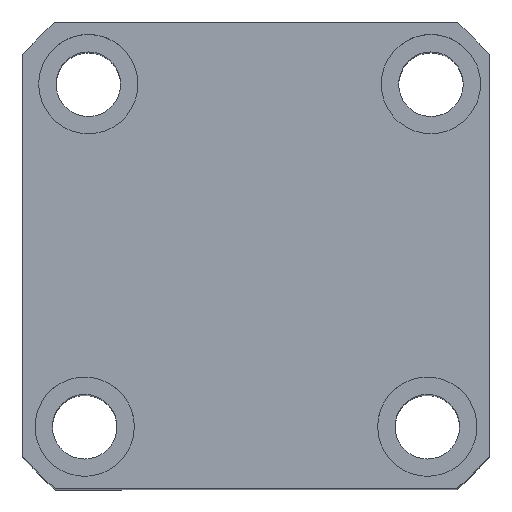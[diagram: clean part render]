
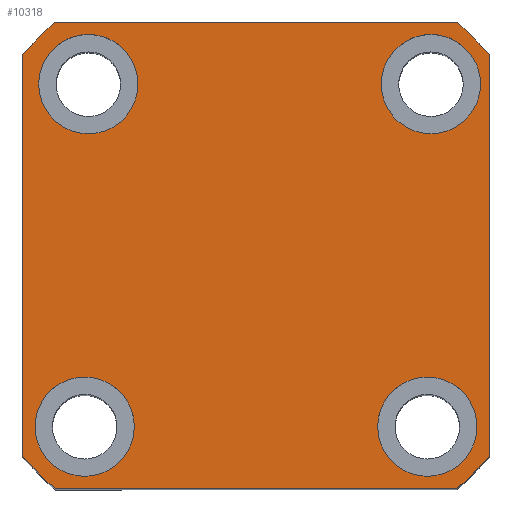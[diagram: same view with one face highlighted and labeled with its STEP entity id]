
A CAD part, top view. The second image highlights one B-rep face of the part: STEP entity #10318.
In plain terms, the highlighted planar face has unit normal (0, 0, 1) as drawn and (0, 0, -1) by its records, which use the part's own axes.
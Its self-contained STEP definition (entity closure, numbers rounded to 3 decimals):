
#5 = CIRCLE ( 'NONE', #10867, 10. ) ;
#49 = ORIENTED_EDGE ( 'NONE', *, *, #9494, .F. ) ;
#69 = DIRECTION ( 'NONE',  ( 0., 0., -1. ) ) ;
#250 = CARTESIAN_POINT ( 'NONE',  ( -23.77, -34.5, 0. ) ) ;
#370 = LINE ( 'NONE', #8621, #17801 ) ;
#492 = DIRECTION ( 'NONE',  ( 1., 0., 0. ) ) ;
#676 = VECTOR ( 'NONE', #6083, 1000. ) ;
#731 = AXIS2_PLACEMENT_3D ( 'NONE', #7987, #13625, #5326 ) ;
#740 = EDGE_CURVE ( 'NONE', #5257, #9294, #1104, .T. ) ;
#774 = CARTESIAN_POINT ( 'NONE',  ( -40.435, 47., 0. ) ) ;
#834 = DIRECTION ( 'NONE',  ( 0., 1., 0. ) ) ;
#865 = AXIS2_PLACEMENT_3D ( 'NONE', #12165, #3870, #13549 ) ;
#907 = VERTEX_POINT ( 'NONE', #774 ) ;
#1052 = EDGE_CURVE ( 'NONE', #907, #5257, #5381, .T. ) ;
#1104 = LINE ( 'NONE', #12939, #676 ) ;
#1409 = ORIENTED_EDGE ( 'NONE', *, *, #3587, .F. ) ;
#1446 = CIRCLE ( 'NONE', #5890, 10. ) ;
#1894 = EDGE_LOOP ( 'NONE', ( #4001, #10492 ) ) ;
#2071 = ORIENTED_EDGE ( 'NONE', *, *, #10392, .F. ) ;
#2080 = CARTESIAN_POINT ( 'NONE',  ( -40.435, -47., 0. ) ) ;
#2364 = DIRECTION ( 'NONE',  ( 0., 0., -1. ) ) ;
#2431 = DIRECTION ( 'NONE',  ( 0., 0., -1. ) ) ;
#2494 = CIRCLE ( 'NONE', #15829, 10. ) ;
#2576 = AXIS2_PLACEMENT_3D ( 'NONE', #16425, #8157, #17778 ) ;
#2600 = CARTESIAN_POINT ( 'NONE',  ( 47., -40.435, 0. ) ) ;
#2655 = CIRCLE ( 'NONE', #14711, 10. ) ;
#3073 = CIRCLE ( 'NONE', #5403, 62. ) ;
#3177 = EDGE_LOOP ( 'NONE', ( #5070, #1409 ) ) ;
#3242 = DIRECTION ( 'NONE',  ( 0., 0., -1. ) ) ;
#3342 = CARTESIAN_POINT ( 'NONE',  ( 47., 40.435, 0. ) ) ;
#3387 = VERTEX_POINT ( 'NONE', #4654 ) ;
#3586 = AXIS2_PLACEMENT_3D ( 'NONE', #14888, #6586, #16245 ) ;
#3587 = EDGE_CURVE ( 'NONE', #3600, #3387, #5, .T. ) ;
#3600 = VERTEX_POINT ( 'NONE', #17324 ) ;
#3737 = CARTESIAN_POINT ( 'NONE',  ( -43.77, -34.5, 0. ) ) ;
#3756 = CIRCLE ( 'NONE', #4845, 10. ) ;
#3792 = ORIENTED_EDGE ( 'NONE', *, *, #9797, .F. ) ;
#3830 = DIRECTION ( 'NONE',  ( 0., 0., -1. ) ) ;
#3870 = DIRECTION ( 'NONE',  ( 0., 0., 1. ) ) ;
#3954 = PLANE ( 'NONE',  #731 ) ;
#4001 = ORIENTED_EDGE ( 'NONE', *, *, #6139, .F. ) ;
#4126 = ORIENTED_EDGE ( 'NONE', *, *, #1052, .F. ) ;
#4202 = ORIENTED_EDGE ( 'NONE', *, *, #9006, .F. ) ;
#4208 = CARTESIAN_POINT ( 'NONE',  ( 34.5, 34.5, 0. ) ) ;
#4314 = VERTEX_POINT ( 'NONE', #3342 ) ;
#4654 = CARTESIAN_POINT ( 'NONE',  ( -44.5, 34.5, 0. ) ) ;
#4845 = AXIS2_PLACEMENT_3D ( 'NONE', #4208, #13887, #5576 ) ;
#4998 = ORIENTED_EDGE ( 'NONE', *, *, #13762, .F. ) ;
#5005 = FACE_BOUND ( 'NONE', #1894, .T. ) ;
#5070 = ORIENTED_EDGE ( 'NONE', *, *, #16532, .F. ) ;
#5099 = VERTEX_POINT ( 'NONE', #16844 ) ;
#5257 = VERTEX_POINT ( 'NONE', #13358 ) ;
#5326 = DIRECTION ( 'NONE',  ( 1., 0., 0. ) ) ;
#5381 = CIRCLE ( 'NONE', #3586, 62. ) ;
#5403 = AXIS2_PLACEMENT_3D ( 'NONE', #7126, #16777, #8535 ) ;
#5429 = EDGE_CURVE ( 'NONE', #10729, #12145, #2494, .T. ) ;
#5499 = CARTESIAN_POINT ( 'NONE',  ( -47., 47., 0. ) ) ;
#5576 = DIRECTION ( 'NONE',  ( -1., 0., 0. ) ) ;
#5890 = AXIS2_PLACEMENT_3D ( 'NONE', #10686, #2431, #12098 ) ;
#5916 = VERTEX_POINT ( 'NONE', #2080 ) ;
#6052 = CARTESIAN_POINT ( 'NONE',  ( 35.23, -34.5, 0. ) ) ;
#6083 = DIRECTION ( 'NONE',  ( 0., -1., 0. ) ) ;
#6139 = EDGE_CURVE ( 'NONE', #10141, #17119, #11326, .T. ) ;
#6375 = ORIENTED_EDGE ( 'NONE', *, *, #11359, .F. ) ;
#6424 = CARTESIAN_POINT ( 'NONE',  ( 25.23, -34.5, 0. ) ) ;
#6586 = DIRECTION ( 'NONE',  ( 0., 0., 1. ) ) ;
#7120 = AXIS2_PLACEMENT_3D ( 'NONE', #6052, #15734, #7443 ) ;
#7126 = CARTESIAN_POINT ( 'NONE',  ( 0., 0., 0. ) ) ;
#7155 = VECTOR ( 'NONE', #16546, 1000. ) ;
#7443 = DIRECTION ( 'NONE',  ( -1., 0., 0. ) ) ;
#7604 = LINE ( 'NONE', #5499, #7155 ) ;
#7748 = CARTESIAN_POINT ( 'NONE',  ( -34.5, 34.5, 0. ) ) ;
#7852 = AXIS2_PLACEMENT_3D ( 'NONE', #11516, #3242, #12917 ) ;
#7987 = CARTESIAN_POINT ( 'NONE',  ( 0., 0., 0. ) ) ;
#8059 = CARTESIAN_POINT ( 'NONE',  ( 40.435, 47., 0. ) ) ;
#8157 = DIRECTION ( 'NONE',  ( 0., 0., 1. ) ) ;
#8231 = CIRCLE ( 'NONE', #10989, 10. ) ;
#8304 = CARTESIAN_POINT ( 'NONE',  ( -34.5, 34.5, 0. ) ) ;
#8535 = DIRECTION ( 'NONE',  ( 1., 0., 0. ) ) ;
#8621 = CARTESIAN_POINT ( 'NONE',  ( -47., -47., 0. ) ) ;
#8686 = FACE_BOUND ( 'NONE', #10077, .T. ) ;
#9006 = EDGE_CURVE ( 'NONE', #12273, #5099, #3756, .T. ) ;
#9151 = DIRECTION ( 'NONE',  ( -1., 0., 0. ) ) ;
#9294 = VERTEX_POINT ( 'NONE', #9462 ) ;
#9462 = CARTESIAN_POINT ( 'NONE',  ( -47., -40.435, 0. ) ) ;
#9494 = EDGE_CURVE ( 'NONE', #11572, #907, #7604, .T. ) ;
#9711 = DIRECTION ( 'NONE',  ( -1., 0., 0. ) ) ;
#9797 = EDGE_CURVE ( 'NONE', #4314, #11572, #3073, .T. ) ;
#9821 = ORIENTED_EDGE ( 'NONE', *, *, #15230, .F. ) ;
#10077 = EDGE_LOOP ( 'NONE', ( #15217, #4202 ) ) ;
#10141 = VERTEX_POINT ( 'NONE', #6424 ) ;
#10145 = EDGE_CURVE ( 'NONE', #5099, #12273, #2655, .T. ) ;
#10318 = ADVANCED_FACE ( 'NONE', ( #5005, #12381, #16444, #8686, #15596 ), #3954, .F. ) ;
#10392 = EDGE_CURVE ( 'NONE', #15677, #11593, #11963, .T. ) ;
#10485 = CIRCLE ( 'NONE', #865, 62. ) ;
#10492 = ORIENTED_EDGE ( 'NONE', *, *, #17653, .F. ) ;
#10605 = CARTESIAN_POINT ( 'NONE',  ( 34.5, 34.5, 0. ) ) ;
#10686 = CARTESIAN_POINT ( 'NONE',  ( -33.77, -34.5, 0. ) ) ;
#10729 = VERTEX_POINT ( 'NONE', #250 ) ;
#10867 = AXIS2_PLACEMENT_3D ( 'NONE', #7748, #17387, #9151 ) ;
#10881 = EDGE_CURVE ( 'NONE', #5916, #15677, #370, .T. ) ;
#10989 = AXIS2_PLACEMENT_3D ( 'NONE', #8304, #69, #9711 ) ;
#11326 = CIRCLE ( 'NONE', #7120, 10. ) ;
#11359 = EDGE_CURVE ( 'NONE', #12145, #10729, #1446, .T. ) ;
#11471 = CARTESIAN_POINT ( 'NONE',  ( 45.23, -34.5, 0. ) ) ;
#11516 = CARTESIAN_POINT ( 'NONE',  ( 35.23, -34.5, 0. ) ) ;
#11572 = VERTEX_POINT ( 'NONE', #8059 ) ;
#11593 = VERTEX_POINT ( 'NONE', #2600 ) ;
#11946 = ORIENTED_EDGE ( 'NONE', *, *, #740, .F. ) ;
#11963 = CIRCLE ( 'NONE', #2576, 62. ) ;
#12019 = DIRECTION ( 'NONE',  ( -1., 0., 0. ) ) ;
#12098 = DIRECTION ( 'NONE',  ( -1., 0., 0. ) ) ;
#12114 = CARTESIAN_POINT ( 'NONE',  ( -33.77, -34.5, 0. ) ) ;
#12145 = VERTEX_POINT ( 'NONE', #3737 ) ;
#12165 = CARTESIAN_POINT ( 'NONE',  ( 0., 0., 0. ) ) ;
#12273 = VERTEX_POINT ( 'NONE', #16316 ) ;
#12381 = FACE_BOUND ( 'NONE', #13768, .T. ) ;
#12917 = DIRECTION ( 'NONE',  ( -1., 0., 0. ) ) ;
#12939 = CARTESIAN_POINT ( 'NONE',  ( -47., 47., 0. ) ) ;
#13358 = CARTESIAN_POINT ( 'NONE',  ( -47., 40.435, 0. ) ) ;
#13498 = DIRECTION ( 'NONE',  ( -1., 0., 0. ) ) ;
#13549 = DIRECTION ( 'NONE',  ( 1., 0., 0. ) ) ;
#13625 = DIRECTION ( 'NONE',  ( 0., 0., 1. ) ) ;
#13762 = EDGE_CURVE ( 'NONE', #9294, #5916, #10485, .T. ) ;
#13768 = EDGE_LOOP ( 'NONE', ( #6375, #16497 ) ) ;
#13887 = DIRECTION ( 'NONE',  ( 0., 0., -1. ) ) ;
#14535 = CIRCLE ( 'NONE', #7852, 10. ) ;
#14594 = VECTOR ( 'NONE', #834, 1000. ) ;
#14711 = AXIS2_PLACEMENT_3D ( 'NONE', #10605, #2364, #12019 ) ;
#14888 = CARTESIAN_POINT ( 'NONE',  ( 0., 0., 0. ) ) ;
#14997 = CARTESIAN_POINT ( 'NONE',  ( 40.435, -47., 0. ) ) ;
#15009 = LINE ( 'NONE', #15793, #14594 ) ;
#15217 = ORIENTED_EDGE ( 'NONE', *, *, #10145, .F. ) ;
#15230 = EDGE_CURVE ( 'NONE', #11593, #4314, #15009, .T. ) ;
#15596 = FACE_OUTER_BOUND ( 'NONE', #16955, .T. ) ;
#15677 = VERTEX_POINT ( 'NONE', #14997 ) ;
#15734 = DIRECTION ( 'NONE',  ( 0., 0., -1. ) ) ;
#15793 = CARTESIAN_POINT ( 'NONE',  ( 47., 47., 0. ) ) ;
#15829 = AXIS2_PLACEMENT_3D ( 'NONE', #12114, #3830, #13498 ) ;
#16022 = ORIENTED_EDGE ( 'NONE', *, *, #10881, .F. ) ;
#16245 = DIRECTION ( 'NONE',  ( 1., 0., 0. ) ) ;
#16316 = CARTESIAN_POINT ( 'NONE',  ( 44.5, 34.5, 0. ) ) ;
#16425 = CARTESIAN_POINT ( 'NONE',  ( 0., 0., 0. ) ) ;
#16444 = FACE_BOUND ( 'NONE', #3177, .T. ) ;
#16497 = ORIENTED_EDGE ( 'NONE', *, *, #5429, .F. ) ;
#16532 = EDGE_CURVE ( 'NONE', #3387, #3600, #8231, .T. ) ;
#16546 = DIRECTION ( 'NONE',  ( -1., 0., 0. ) ) ;
#16777 = DIRECTION ( 'NONE',  ( 0., 0., 1. ) ) ;
#16844 = CARTESIAN_POINT ( 'NONE',  ( 24.5, 34.5, 0. ) ) ;
#16955 = EDGE_LOOP ( 'NONE', ( #3792, #9821, #2071, #16022, #4998, #11946, #4126, #49 ) ) ;
#17119 = VERTEX_POINT ( 'NONE', #11471 ) ;
#17324 = CARTESIAN_POINT ( 'NONE',  ( -24.5, 34.5, 0. ) ) ;
#17387 = DIRECTION ( 'NONE',  ( 0., 0., -1. ) ) ;
#17653 = EDGE_CURVE ( 'NONE', #17119, #10141, #14535, .T. ) ;
#17778 = DIRECTION ( 'NONE',  ( 1., 0., 0. ) ) ;
#17801 = VECTOR ( 'NONE', #492, 1000. ) ;
